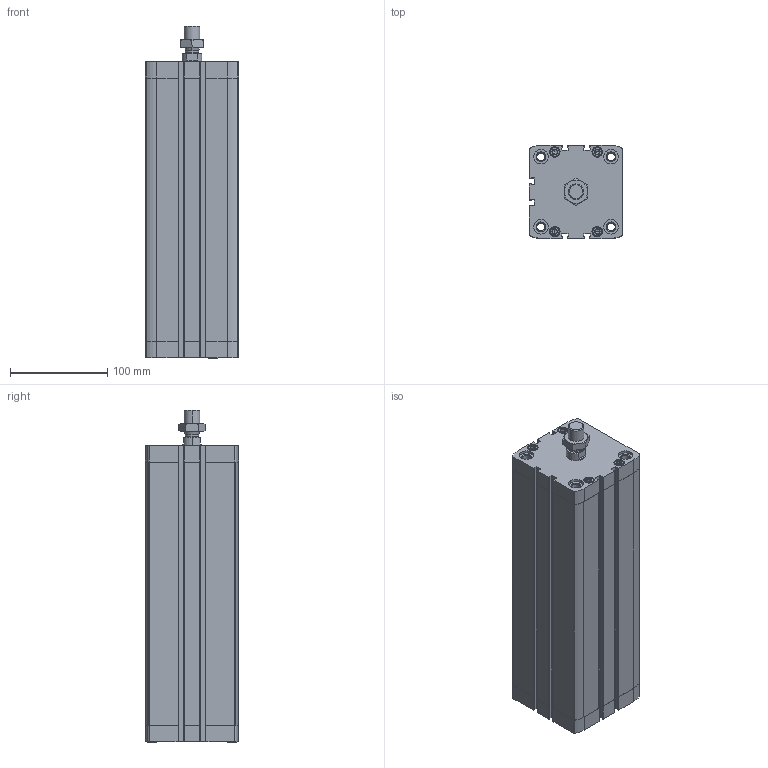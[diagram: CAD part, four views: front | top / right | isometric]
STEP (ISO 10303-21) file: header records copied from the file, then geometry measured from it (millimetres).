
FILE_DESCRIPTION (( 'STEP AP203' ), '1' );
FILE_NAME ('CCN80-250M.STEP', '2017-04-06T11:58:34', ( '' ), ( '' ), 'SwSTEP 2.0', 'SolidWorks 2016', '' );
FILE_SCHEMA (( 'CONFIG_CONTROL_DESIGN' ));
Length unit declared in the file: millimetre
Products named in the file (4): CCN-250---(Z); CCN-250_(KS); _DIN-439-B - M16x1.5(F); CCN80-250M
Assembly tree (3 placements, depth 2):
  CCN80-250M
    CCN-250---(Z)
    CCN-250_(KS)
    _DIN-439-B - M16x1.5(F)
Bounding box: 95.5 x 95.5 x 340.9 mm (x, y, z)
Volume: 1428179.6 mm3; surface area: 303104.7 mm2
Topology: 3 solids, 3 shells, 507 faces, 1276 edges, 806 vertices
Faces by surface type: plane 235, cylinder 188, cone 80, bspline 4
Entity records: 16066 total; most frequent: CARTESIAN_POINT 3291, DIRECTION 2700, ORIENTED_EDGE 2520, EDGE_CURVE 1260, AXIS2_PLACEMENT_3D 1011, VERTEX_POINT 806, LINE 678, VECTOR 678
